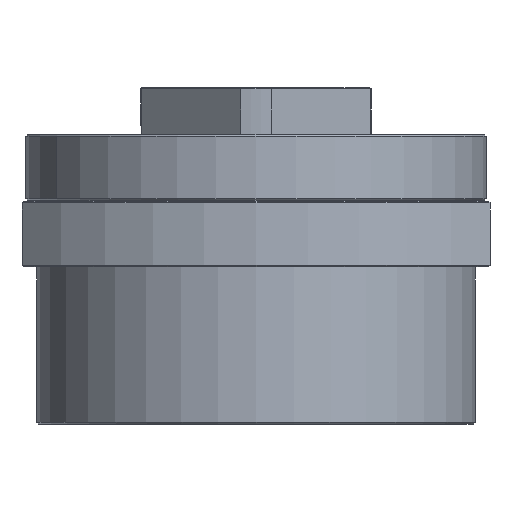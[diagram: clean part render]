
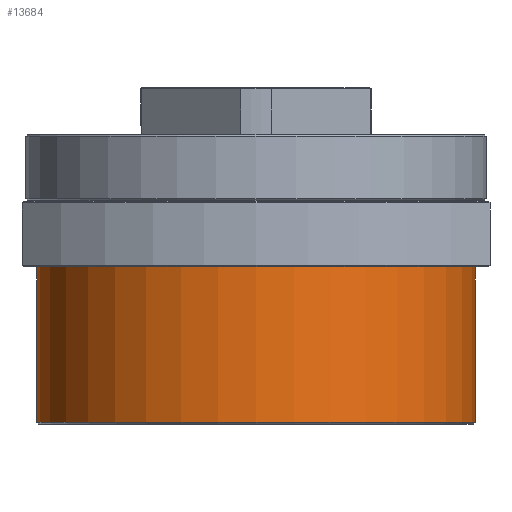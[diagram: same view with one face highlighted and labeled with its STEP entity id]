
A CAD part, left-side view. The second image highlights one B-rep face of the part: STEP entity #13684.
In plain terms, the highlighted cylindrical face has radius 60 mm (diameter 120 mm), a partial arc.
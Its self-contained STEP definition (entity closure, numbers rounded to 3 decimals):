
#1938 = CARTESIAN_POINT ( 'NONE',  ( 0., -60., -30. ) ) ;
#2093 = CARTESIAN_POINT ( 'NONE',  ( 0., 60., -30. ) ) ;
#2393 = CARTESIAN_POINT ( 'NONE',  ( 0., -60., 12.5 ) ) ;
#2394 = CARTESIAN_POINT ( 'NONE',  ( 0., 60., 12.5 ) ) ;
#3431 = CARTESIAN_POINT ( 'NONE',  ( 0., 0., 30.5 ) ) ;
#3432 = DIRECTION ( 'NONE',  ( 0., 0., 1. ) ) ;
#3433 = DIRECTION ( 'NONE',  ( 0., -1., 0. ) ) ;
#4930 = LINE ( 'NONE', #4931, #10723 ) ;
#4931 = CARTESIAN_POINT ( 'NONE',  ( 0., 60., 30.5 ) ) ;
#4932 = DIRECTION ( 'NONE',  ( 0., 0., 1. ) ) ;
#4936 = LINE ( 'NONE', #4937, #10725 ) ;
#4937 = CARTESIAN_POINT ( 'NONE',  ( 0., -60., 30.5 ) ) ;
#4938 = DIRECTION ( 'NONE',  ( 0., 0., 1. ) ) ;
#5088 = CARTESIAN_POINT ( 'NONE',  ( 0., 0., 12.5 ) ) ;
#5089 = DIRECTION ( 'NONE',  ( 0., 0., 1. ) ) ;
#5090 = DIRECTION ( 'NONE',  ( 0., -1., 0. ) ) ;
#5091 = CARTESIAN_POINT ( 'NONE',  ( 0., 0., -30. ) ) ;
#5092 = DIRECTION ( 'NONE',  ( 0., 0., 1. ) ) ;
#5093 = DIRECTION ( 'NONE',  ( 0., -1., 0. ) ) ;
#5976 = VERTEX_POINT ( 'NONE', #1938 ) ;
#6131 = VERTEX_POINT ( 'NONE', #2093 ) ;
#6431 = VERTEX_POINT ( 'NONE', #2393 ) ;
#6432 = VERTEX_POINT ( 'NONE', #2394 ) ;
#8374 = EDGE_LOOP ( 'NONE', ( #8789, #8793, #8792, #8795 ) ) ;
#8789 = ORIENTED_EDGE ( 'NONE', *, *, #13420, .F. ) ;
#8792 = ORIENTED_EDGE ( 'NONE', *, *, #13422, .T. ) ;
#8793 = ORIENTED_EDGE ( 'NONE', *, *, #13474, .T. ) ;
#8795 = ORIENTED_EDGE ( 'NONE', *, *, #13473, .F. ) ;
#9567 = CIRCLE ( 'NONE', #10777, 60. ) ;
#9568 = CIRCLE ( 'NONE', #10776, 60. ) ;
#10723 = VECTOR ( 'NONE', #4932, 1000. ) ;
#10725 = VECTOR ( 'NONE', #4938, 1000. ) ;
#10776 = AXIS2_PLACEMENT_3D ( 'NONE', #5091, #5092, #5093 ) ;
#10777 = AXIS2_PLACEMENT_3D ( 'NONE', #5088, #5089, #5090 ) ;
#11087 = AXIS2_PLACEMENT_3D ( 'NONE', #3431, #3432, #3433 ) ;
#11089 = CYLINDRICAL_SURFACE ( 'NONE', #11087, 60. ) ;
#11091 = FACE_OUTER_BOUND ( 'NONE', #8374, .T. ) ;
#13420 = EDGE_CURVE ( 'NONE', #6131, #6432, #4930, .T. ) ;
#13422 = EDGE_CURVE ( 'NONE', #5976, #6431, #4936, .T. ) ;
#13473 = EDGE_CURVE ( 'NONE', #6432, #6431, #9567, .T. ) ;
#13474 = EDGE_CURVE ( 'NONE', #6131, #5976, #9568, .T. ) ;
#13684 = ADVANCED_FACE ( 'NONE', ( #11091 ), #11089, .T. ) ;
